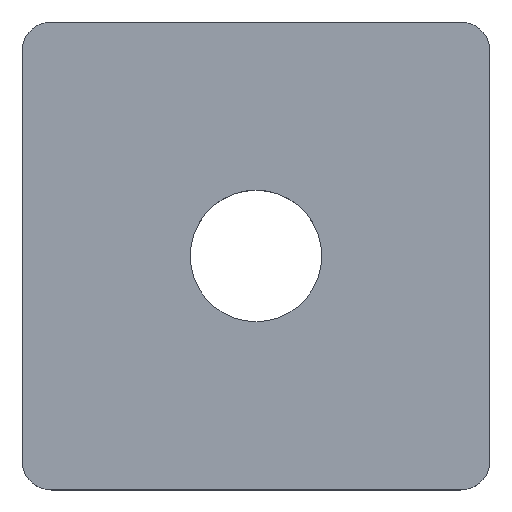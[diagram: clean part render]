
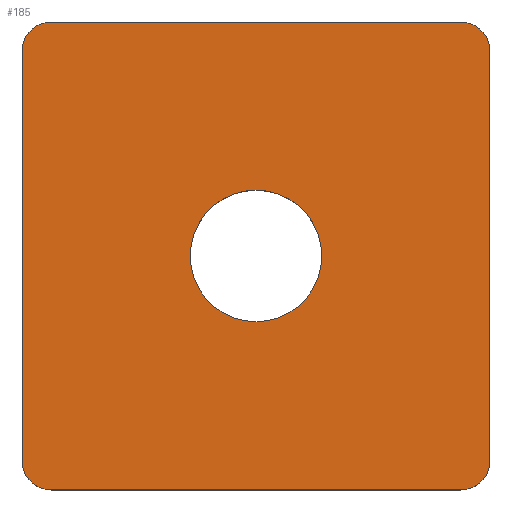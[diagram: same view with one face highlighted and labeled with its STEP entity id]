
A CAD part, top view. The second image highlights one B-rep face of the part: STEP entity #185.
In plain terms, the highlighted planar face has unit normal (0, 0, 1).
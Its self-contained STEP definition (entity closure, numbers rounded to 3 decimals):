
#24 = VERTEX_POINT('',#25);
#25 = CARTESIAN_POINT('',(-7.,-8.,3.));
#31 = EDGE_CURVE('',#24,#32,#34,.T.);
#32 = VERTEX_POINT('',#33);
#33 = CARTESIAN_POINT('',(7.,-8.,3.));
#34 = LINE('',#35,#36);
#35 = CARTESIAN_POINT('',(-7.,-8.,3.));
#36 = VECTOR('',#37,1.);
#37 = DIRECTION('',(1.,0.,0.));
#64 = VERTEX_POINT('',#65);
#65 = CARTESIAN_POINT('',(-8.,-7.,3.));
#71 = EDGE_CURVE('',#64,#24,#72,.T.);
#72 = CIRCLE('',#73,1.);
#73 = AXIS2_PLACEMENT_3D('',#74,#75,#76);
#74 = CARTESIAN_POINT('',(-7.,-7.,3.));
#75 = DIRECTION('',(0.,0.,1.));
#76 = DIRECTION('',(1.,0.,0.));
#95 = EDGE_CURVE('',#32,#96,#98,.T.);
#96 = VERTEX_POINT('',#97);
#97 = CARTESIAN_POINT('',(8.,-7.,3.));
#98 = CIRCLE('',#99,1.);
#99 = AXIS2_PLACEMENT_3D('',#100,#101,#102);
#100 = CARTESIAN_POINT('',(7.,-7.,3.));
#101 = DIRECTION('',(0.,0.,1.));
#102 = DIRECTION('',(1.,0.,0.));
#185 = ADVANCED_FACE('',(#186,#231),#242,.T.);
#186 = FACE_BOUND('',#187,.T.);
#187 = EDGE_LOOP('',(#188,#189,#190,#198,#207,#215,#224,#230));
#188 = ORIENTED_EDGE('',*,*,#31,.T.);
#189 = ORIENTED_EDGE('',*,*,#95,.T.);
#190 = ORIENTED_EDGE('',*,*,#191,.T.);
#191 = EDGE_CURVE('',#96,#192,#194,.T.);
#192 = VERTEX_POINT('',#193);
#193 = CARTESIAN_POINT('',(8.,7.,3.));
#194 = LINE('',#195,#196);
#195 = CARTESIAN_POINT('',(8.,-7.,3.));
#196 = VECTOR('',#197,1.);
#197 = DIRECTION('',(0.,1.,0.));
#198 = ORIENTED_EDGE('',*,*,#199,.T.);
#199 = EDGE_CURVE('',#192,#200,#202,.T.);
#200 = VERTEX_POINT('',#201);
#201 = CARTESIAN_POINT('',(7.,8.,3.));
#202 = CIRCLE('',#203,1.);
#203 = AXIS2_PLACEMENT_3D('',#204,#205,#206);
#204 = CARTESIAN_POINT('',(7.,7.,3.));
#205 = DIRECTION('',(0.,0.,1.));
#206 = DIRECTION('',(1.,0.,0.));
#207 = ORIENTED_EDGE('',*,*,#208,.T.);
#208 = EDGE_CURVE('',#200,#209,#211,.T.);
#209 = VERTEX_POINT('',#210);
#210 = CARTESIAN_POINT('',(-7.,8.,3.));
#211 = LINE('',#212,#213);
#212 = CARTESIAN_POINT('',(7.,8.,3.));
#213 = VECTOR('',#214,1.);
#214 = DIRECTION('',(-1.,0.,0.));
#215 = ORIENTED_EDGE('',*,*,#216,.T.);
#216 = EDGE_CURVE('',#209,#217,#219,.T.);
#217 = VERTEX_POINT('',#218);
#218 = CARTESIAN_POINT('',(-8.,7.,3.));
#219 = CIRCLE('',#220,1.);
#220 = AXIS2_PLACEMENT_3D('',#221,#222,#223);
#221 = CARTESIAN_POINT('',(-7.,7.,3.));
#222 = DIRECTION('',(0.,0.,1.));
#223 = DIRECTION('',(1.,0.,0.));
#224 = ORIENTED_EDGE('',*,*,#225,.T.);
#225 = EDGE_CURVE('',#217,#64,#226,.T.);
#226 = LINE('',#227,#228);
#227 = CARTESIAN_POINT('',(-8.,7.,3.));
#228 = VECTOR('',#229,1.);
#229 = DIRECTION('',(0.,-1.,0.));
#230 = ORIENTED_EDGE('',*,*,#71,.T.);
#231 = FACE_BOUND('',#232,.T.);
#232 = EDGE_LOOP('',(#233));
#233 = ORIENTED_EDGE('',*,*,#234,.F.);
#234 = EDGE_CURVE('',#235,#235,#237,.T.);
#235 = VERTEX_POINT('',#236);
#236 = CARTESIAN_POINT('',(2.25,0.,3.));
#237 = CIRCLE('',#238,2.25);
#238 = AXIS2_PLACEMENT_3D('',#239,#240,#241);
#239 = CARTESIAN_POINT('',(0.,0.,3.));
#240 = DIRECTION('',(0.,0.,1.));
#241 = DIRECTION('',(1.,0.,0.));
#242 = PLANE('',#243);
#243 = AXIS2_PLACEMENT_3D('',#244,#245,#246);
#244 = CARTESIAN_POINT('',(0.,0.,3.));
#245 = DIRECTION('',(0.,0.,1.));
#246 = DIRECTION('',(1.,0.,0.));
